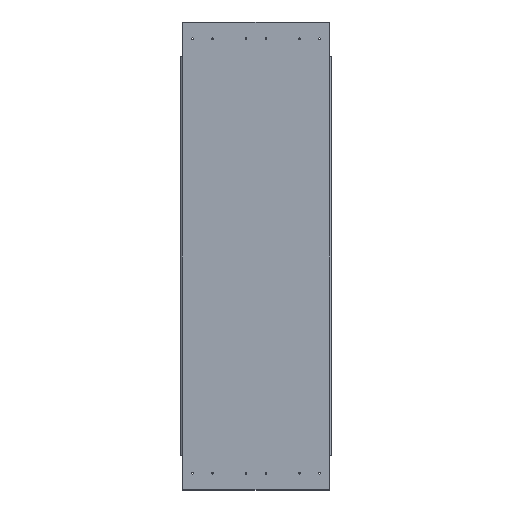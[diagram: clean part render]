
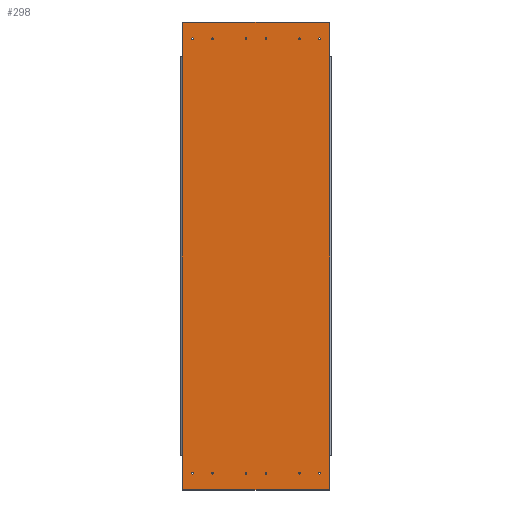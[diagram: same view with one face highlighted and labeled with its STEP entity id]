
A CAD part, top view. The second image highlights one B-rep face of the part: STEP entity #298.
In plain terms, the highlighted planar face has unit normal (0, 0, 1).
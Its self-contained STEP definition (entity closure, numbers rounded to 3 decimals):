
#59=CARTESIAN_POINT('',(1580.,2093.5,427.5));
#60=DIRECTION('',(-0.,-0.,1.));
#61=DIRECTION('',(0.,1.,0.));
#62=AXIS2_PLACEMENT_3D('',#59,#60,#61);
#63=PLANE('',#62);
#64=CARTESIAN_POINT('',(1590.,2130.9,427.5));
#65=VERTEX_POINT('',#64);
#66=CARTESIAN_POINT('',(1590.,2133.5,427.5));
#67=DIRECTION('',(-0.,-0.,1.));
#68=DIRECTION('',(0.,-1.,-0.));
#69=AXIS2_PLACEMENT_3D('',#66,#67,#68);
#70=CIRCLE('',#69,2.6);
#71=EDGE_CURVE('',#65,#65,#70,.T.);
#72=ORIENTED_EDGE('',*,*,#71,.F.);
#73=EDGE_LOOP('',(#72));
#74=FACE_BOUND('',#73,.T.);
#75=CARTESIAN_POINT('',(1530.,2130.9,427.5));
#76=VERTEX_POINT('',#75);
#77=CARTESIAN_POINT('',(1530.,2133.5,427.5));
#78=DIRECTION('',(-0.,-0.,1.));
#79=DIRECTION('',(0.,-1.,-0.));
#80=AXIS2_PLACEMENT_3D('',#77,#78,#79);
#81=CIRCLE('',#80,2.6);
#82=EDGE_CURVE('',#76,#76,#81,.T.);
#83=ORIENTED_EDGE('',*,*,#82,.F.);
#84=EDGE_LOOP('',(#83));
#85=FACE_BOUND('',#84,.T.);
#86=CARTESIAN_POINT('',(1430.,2130.9,427.5));
#87=VERTEX_POINT('',#86);
#88=CARTESIAN_POINT('',(1430.,2133.5,427.5));
#89=DIRECTION('',(-0.,-0.,1.));
#90=DIRECTION('',(0.,-1.,-0.));
#91=AXIS2_PLACEMENT_3D('',#88,#89,#90);
#92=CIRCLE('',#91,2.6);
#93=EDGE_CURVE('',#87,#87,#92,.T.);
#94=ORIENTED_EDGE('',*,*,#93,.F.);
#95=EDGE_LOOP('',(#94));
#96=FACE_BOUND('',#95,.T.);
#97=CARTESIAN_POINT('',(1370.,2130.9,427.5));
#98=VERTEX_POINT('',#97);
#99=CARTESIAN_POINT('',(1370.,2133.5,427.5));
#100=DIRECTION('',(-0.,-0.,1.));
#101=DIRECTION('',(0.,-1.,-0.));
#102=AXIS2_PLACEMENT_3D('',#99,#100,#101);
#103=CIRCLE('',#102,2.6);
#104=EDGE_CURVE('',#98,#98,#103,.T.);
#105=ORIENTED_EDGE('',*,*,#104,.F.);
#106=EDGE_LOOP('',(#105));
#107=FACE_BOUND('',#106,.T.);
#108=CARTESIAN_POINT('',(1270.,2130.9,427.5));
#109=VERTEX_POINT('',#108);
#110=CARTESIAN_POINT('',(1270.,2133.5,427.5));
#111=DIRECTION('',(-0.,-0.,1.));
#112=DIRECTION('',(0.,-1.,-0.));
#113=AXIS2_PLACEMENT_3D('',#110,#111,#112);
#114=CIRCLE('',#113,2.6);
#115=EDGE_CURVE('',#109,#109,#114,.T.);
#116=ORIENTED_EDGE('',*,*,#115,.F.);
#117=EDGE_LOOP('',(#116));
#118=FACE_BOUND('',#117,.T.);
#119=CARTESIAN_POINT('',(1210.,2130.9,427.5));
#120=VERTEX_POINT('',#119);
#121=CARTESIAN_POINT('',(1210.,2133.5,427.5));
#122=DIRECTION('',(-0.,-0.,1.));
#123=DIRECTION('',(0.,-1.,-0.));
#124=AXIS2_PLACEMENT_3D('',#121,#122,#123);
#125=CIRCLE('',#124,2.6);
#126=EDGE_CURVE('',#120,#120,#125,.T.);
#127=ORIENTED_EDGE('',*,*,#126,.F.);
#128=EDGE_LOOP('',(#127));
#129=FACE_BOUND('',#128,.T.);
#130=CARTESIAN_POINT('',(1270.,3430.9,427.5));
#131=VERTEX_POINT('',#130);
#132=CARTESIAN_POINT('',(1270.,3433.5,427.5));
#133=DIRECTION('',(-0.,-0.,1.));
#134=DIRECTION('',(0.,-1.,-0.));
#135=AXIS2_PLACEMENT_3D('',#132,#133,#134);
#136=CIRCLE('',#135,2.6);
#137=EDGE_CURVE('',#131,#131,#136,.T.);
#138=ORIENTED_EDGE('',*,*,#137,.F.);
#139=EDGE_LOOP('',(#138));
#140=FACE_BOUND('',#139,.T.);
#141=CARTESIAN_POINT('',(1210.,3430.9,427.5));
#142=VERTEX_POINT('',#141);
#143=CARTESIAN_POINT('',(1210.,3433.5,427.5));
#144=DIRECTION('',(-0.,-0.,1.));
#145=DIRECTION('',(0.,-1.,-0.));
#146=AXIS2_PLACEMENT_3D('',#143,#144,#145);
#147=CIRCLE('',#146,2.6);
#148=EDGE_CURVE('',#142,#142,#147,.T.);
#149=ORIENTED_EDGE('',*,*,#148,.F.);
#150=EDGE_LOOP('',(#149));
#151=FACE_BOUND('',#150,.T.);
#152=CARTESIAN_POINT('',(1590.,3430.9,427.5));
#153=VERTEX_POINT('',#152);
#154=CARTESIAN_POINT('',(1590.,3433.5,427.5));
#155=DIRECTION('',(-0.,-0.,1.));
#156=DIRECTION('',(0.,-1.,-0.));
#157=AXIS2_PLACEMENT_3D('',#154,#155,#156);
#158=CIRCLE('',#157,2.6);
#159=EDGE_CURVE('',#153,#153,#158,.T.);
#160=ORIENTED_EDGE('',*,*,#159,.F.);
#161=EDGE_LOOP('',(#160));
#162=FACE_BOUND('',#161,.T.);
#163=CARTESIAN_POINT('',(1530.,3430.9,427.5));
#164=VERTEX_POINT('',#163);
#165=CARTESIAN_POINT('',(1530.,3433.5,427.5));
#166=DIRECTION('',(-0.,-0.,1.));
#167=DIRECTION('',(0.,-1.,-0.));
#168=AXIS2_PLACEMENT_3D('',#165,#166,#167);
#169=CIRCLE('',#168,2.6);
#170=EDGE_CURVE('',#164,#164,#169,.T.);
#171=ORIENTED_EDGE('',*,*,#170,.F.);
#172=EDGE_LOOP('',(#171));
#173=FACE_BOUND('',#172,.T.);
#174=CARTESIAN_POINT('',(1370.,3430.9,427.5));
#175=VERTEX_POINT('',#174);
#176=CARTESIAN_POINT('',(1370.,3433.5,427.5));
#177=DIRECTION('',(-0.,-0.,1.));
#178=DIRECTION('',(0.,-1.,-0.));
#179=AXIS2_PLACEMENT_3D('',#176,#177,#178);
#180=CIRCLE('',#179,2.6);
#181=EDGE_CURVE('',#175,#175,#180,.T.);
#182=ORIENTED_EDGE('',*,*,#181,.F.);
#183=EDGE_LOOP('',(#182));
#184=FACE_BOUND('',#183,.T.);
#185=CARTESIAN_POINT('',(1430.,3430.9,427.5));
#186=VERTEX_POINT('',#185);
#187=CARTESIAN_POINT('',(1430.,3433.5,427.5));
#188=DIRECTION('',(-0.,-0.,1.));
#189=DIRECTION('',(0.,-1.,-0.));
#190=AXIS2_PLACEMENT_3D('',#187,#188,#189);
#191=CIRCLE('',#190,2.6);
#192=EDGE_CURVE('',#186,#186,#191,.T.);
#193=ORIENTED_EDGE('',*,*,#192,.F.);
#194=EDGE_LOOP('',(#193));
#195=FACE_BOUND('',#194,.T.);
#196=CARTESIAN_POINT('',(1180.,3379.5,427.5));
#197=VERTEX_POINT('',#196);
#198=CARTESIAN_POINT('',(1180.,3482.5,427.5));
#199=VERTEX_POINT('',#198);
#200=CARTESIAN_POINT('',(1180.,3379.5,427.5));
#201=DIRECTION('',(0.,1.,0.));
#202=VECTOR('',#201,103.);
#203=LINE('',#200,#202);
#204=EDGE_CURVE('',#197,#199,#203,.T.);
#205=ORIENTED_EDGE('',*,*,#204,.F.);
#206=CARTESIAN_POINT('',(1180.,2187.5,427.5));
#207=VERTEX_POINT('',#206);
#208=CARTESIAN_POINT('',(1180.,3379.5,427.5));
#209=DIRECTION('',(-0.,-1.,-0.));
#210=VECTOR('',#209,1192.);
#211=LINE('',#208,#210);
#212=EDGE_CURVE('',#197,#207,#211,.T.);
#213=ORIENTED_EDGE('',*,*,#212,.T.);
#214=CARTESIAN_POINT('',(1180.,2084.5,427.5));
#215=VERTEX_POINT('',#214);
#216=CARTESIAN_POINT('',(1180.,2187.5,427.5));
#217=DIRECTION('',(0.,-1.,-0.));
#218=VECTOR('',#217,103.);
#219=LINE('',#216,#218);
#220=EDGE_CURVE('',#207,#215,#219,.T.);
#221=ORIENTED_EDGE('',*,*,#220,.T.);
#222=CARTESIAN_POINT('',(1181.,2083.5,427.5));
#223=VERTEX_POINT('',#222);
#224=CARTESIAN_POINT('',(1181.,2084.5,427.5));
#225=DIRECTION('',(-0.,-0.,1.));
#226=DIRECTION('',(0.,-1.,-0.));
#227=AXIS2_PLACEMENT_3D('',#224,#225,#226);
#228=CIRCLE('',#227,1.);
#229=EDGE_CURVE('',#215,#223,#228,.T.);
#230=ORIENTED_EDGE('',*,*,#229,.T.);
#231=CARTESIAN_POINT('',(1619.,2083.5,427.5));
#232=VERTEX_POINT('',#231);
#233=CARTESIAN_POINT('',(1619.,2083.5,427.5));
#234=DIRECTION('',(-1.,0.,0.));
#235=VECTOR('',#234,438.);
#236=LINE('',#233,#235);
#237=EDGE_CURVE('',#232,#223,#236,.T.);
#238=ORIENTED_EDGE('',*,*,#237,.F.);
#239=CARTESIAN_POINT('',(1620.,2084.5,427.5));
#240=VERTEX_POINT('',#239);
#241=CARTESIAN_POINT('',(1619.,2084.5,427.5));
#242=DIRECTION('',(-0.,-0.,1.));
#243=DIRECTION('',(0.,-1.,-0.));
#244=AXIS2_PLACEMENT_3D('',#241,#242,#243);
#245=CIRCLE('',#244,1.);
#246=EDGE_CURVE('',#232,#240,#245,.T.);
#247=ORIENTED_EDGE('',*,*,#246,.T.);
#248=CARTESIAN_POINT('',(1620.,2187.5,427.5));
#249=VERTEX_POINT('',#248);
#250=CARTESIAN_POINT('',(1620.,2187.5,427.5));
#251=DIRECTION('',(0.,-1.,-0.));
#252=VECTOR('',#251,103.);
#253=LINE('',#250,#252);
#254=EDGE_CURVE('',#249,#240,#253,.T.);
#255=ORIENTED_EDGE('',*,*,#254,.F.);
#256=CARTESIAN_POINT('',(1620.,3379.5,427.5));
#257=VERTEX_POINT('',#256);
#258=CARTESIAN_POINT('',(1620.,2187.5,427.5));
#259=DIRECTION('',(0.,1.,0.));
#260=VECTOR('',#259,1192.);
#261=LINE('',#258,#260);
#262=EDGE_CURVE('',#249,#257,#261,.T.);
#263=ORIENTED_EDGE('',*,*,#262,.T.);
#264=CARTESIAN_POINT('',(1620.,3482.5,427.5));
#265=VERTEX_POINT('',#264);
#266=CARTESIAN_POINT('',(1620.,3379.5,427.5));
#267=DIRECTION('',(0.,1.,0.));
#268=VECTOR('',#267,103.);
#269=LINE('',#266,#268);
#270=EDGE_CURVE('',#257,#265,#269,.T.);
#271=ORIENTED_EDGE('',*,*,#270,.T.);
#272=CARTESIAN_POINT('',(1619.,3483.5,427.5));
#273=VERTEX_POINT('',#272);
#274=CARTESIAN_POINT('',(1619.,3482.5,427.5));
#275=DIRECTION('',(-0.,-0.,1.));
#276=DIRECTION('',(0.,-1.,-0.));
#277=AXIS2_PLACEMENT_3D('',#274,#275,#276);
#278=CIRCLE('',#277,1.);
#279=EDGE_CURVE('',#265,#273,#278,.T.);
#280=ORIENTED_EDGE('',*,*,#279,.T.);
#281=CARTESIAN_POINT('',(1181.,3483.5,427.5));
#282=VERTEX_POINT('',#281);
#283=CARTESIAN_POINT('',(1619.,3483.5,427.5));
#284=DIRECTION('',(-1.,0.,0.));
#285=VECTOR('',#284,438.);
#286=LINE('',#283,#285);
#287=EDGE_CURVE('',#273,#282,#286,.T.);
#288=ORIENTED_EDGE('',*,*,#287,.T.);
#289=CARTESIAN_POINT('',(1181.,3482.5,427.5));
#290=DIRECTION('',(-0.,-0.,1.));
#291=DIRECTION('',(0.,-1.,-0.));
#292=AXIS2_PLACEMENT_3D('',#289,#290,#291);
#293=CIRCLE('',#292,1.);
#294=EDGE_CURVE('',#282,#199,#293,.T.);
#295=ORIENTED_EDGE('',*,*,#294,.T.);
#296=EDGE_LOOP('',(#205,#213,#221,#230,#238,#247,#255,#263,#271,#280,#288,#295));
#297=FACE_BOUND('',#296,.T.);
#298=ADVANCED_FACE('',(#74,#85,#96,#107,#118,#129,#140,#151,#162,#173,#184,#195,#297),#63,.T.);
